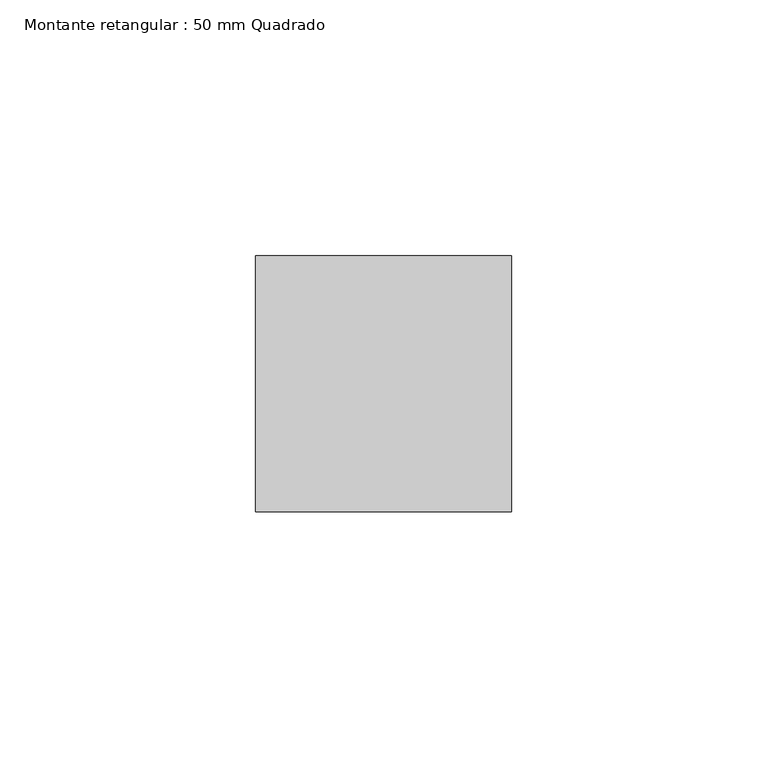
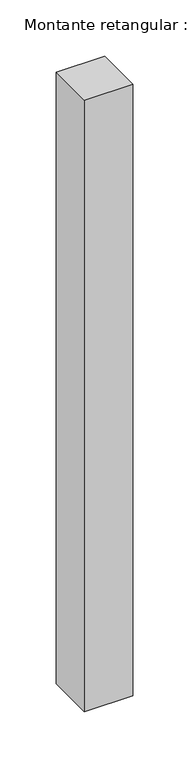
"""IFC4 building model written with IfcOpenShell, lengths in millimetres: member geometry, Montante retangular : 50 mm Quadrado."""

from ifc_helpers import new_model, si_unit, frame, origin, place, context, project, spatial, polyline, outline, extrude, source, transform, mapped, element, save


def montante_retangular_50_mm_quadrado_ddd80bd7(model_context):
    return source(origin(), model_context, "Body", "SweptSolid", [
        extrude(outline(polyline([(0.0, 25.0), (0.0, -25.0), (-50.0, -25.0), (-50.0, 25.0), (0.0, 25.0)])), frame((0.0, 0.0, -665.0), z_axis=(0.0, 0.0, 1.0), x_axis=(1.0, 0.0, 0.0)), (0.0, 0.0, 1.0), 665.0),
    ])


if __name__ == "__main__":
    model = new_model("IFC4")
    model_context = context("Model", 3, world=origin())
    ifc_project = project(units=[si_unit("LENGTHUNIT", "METRE", prefix="MILLI")], contexts=[model_context])
    site = spatial("IfcSite", under=ifc_project)
    building = spatial("IfcBuilding", under=site)
    placement = place(None, origin())
    montante_retangular_50_mm_quadrado_shape = montante_retangular_50_mm_quadrado_ddd80bd7(model_context)
    element("IfcMember", 1, ObjectType="Montante retangular : 50 mm Quadrado", at=placement, inside=building, context=model_context, shape_type="MappedRepresentation", body=[
        mapped(montante_retangular_50_mm_quadrado_shape, transform((0.0, 0.0, 0.0), x_axis=(1.0, 0.0, 0.0), y_axis=(0.0, 1.0, 0.0), z_axis=(0.0, 0.0, 1.0))),
    ])
    save(model, "model.ifc")
